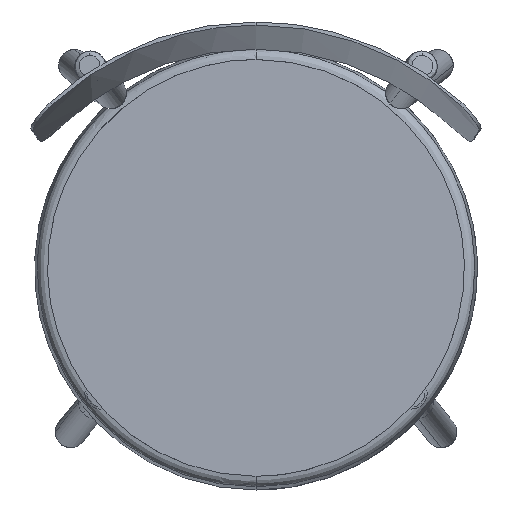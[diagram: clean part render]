
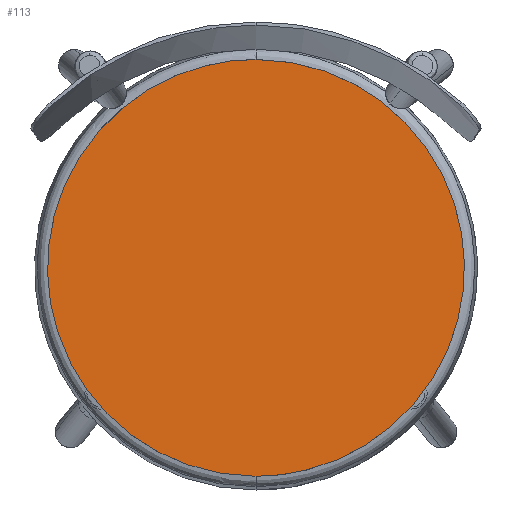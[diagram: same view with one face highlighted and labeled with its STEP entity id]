
A CAD part, top view. The second image highlights one B-rep face of the part: STEP entity #113.
In plain terms, the highlighted planar face has unit normal (0, 0.018, 1).
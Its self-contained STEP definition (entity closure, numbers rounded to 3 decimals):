
#113=ADVANCED_FACE('',(#314),#2883,.T.);
#314=FACE_OUTER_BOUND('',#517,.T.);
#517=EDGE_LOOP('',(#985,#986));
#985=ORIENTED_EDGE('',*,*,#1707,.F.);
#986=ORIENTED_EDGE('',*,*,#1771,.F.);
#1707=EDGE_CURVE('',#2638,#2639,#2331,.T.);
#1771=EDGE_CURVE('',#2639,#2638,#2369,.T.);
#2331=(
BOUNDED_CURVE()
B_SPLINE_CURVE(2,(#6556,#6557,#6558,#6559,#6560),.UNSPECIFIED.,.F.,.F.)
B_SPLINE_CURVE_WITH_KNOTS((3,2,3),(0.,315.474,630.947),
 .UNSPECIFIED.)
CURVE()
GEOMETRIC_REPRESENTATION_ITEM()
RATIONAL_B_SPLINE_CURVE((1.,0.707,1.,0.707,1.))
REPRESENTATION_ITEM('')
);
#2369=(
BOUNDED_CURVE()
B_SPLINE_CURVE(2,(#6916,#6917,#6918,#6919,#6920),.UNSPECIFIED.,.F.,.F.)
B_SPLINE_CURVE_WITH_KNOTS((3,2,3),(0.,315.474,630.947),
 .UNSPECIFIED.)
CURVE()
GEOMETRIC_REPRESENTATION_ITEM()
RATIONAL_B_SPLINE_CURVE((1.,0.707,1.,0.707,1.))
REPRESENTATION_ITEM('')
);
#2638=VERTEX_POINT('',#6205);
#2639=VERTEX_POINT('',#6206);
#2883=PLANE('',#3176);
#3176=AXIS2_PLACEMENT_3D('',#5790,#3301,$);
#3301=DIRECTION('',(0.,0.017,1.));
#5790=CARTESIAN_POINT('',(-241.004,-252.13,461.798));
#6205=CARTESIAN_POINT('',(0.,189.643,454.087));
#6206=CARTESIAN_POINT('',(0.,-211.969,461.097));
#6556=CARTESIAN_POINT('',(0.,189.643,454.087));
#6557=CARTESIAN_POINT('',(200.837,189.643,454.087));
#6558=CARTESIAN_POINT('',(200.837,-11.163,457.592));
#6559=CARTESIAN_POINT('',(200.837,-211.969,461.097));
#6560=CARTESIAN_POINT('',(0.,-211.969,461.097));
#6916=CARTESIAN_POINT('',(0.,-211.969,461.097));
#6917=CARTESIAN_POINT('',(-200.837,-211.969,461.097));
#6918=CARTESIAN_POINT('',(-200.837,-11.163,457.592));
#6919=CARTESIAN_POINT('',(-200.837,189.643,454.087));
#6920=CARTESIAN_POINT('',(0.,189.643,454.087));
